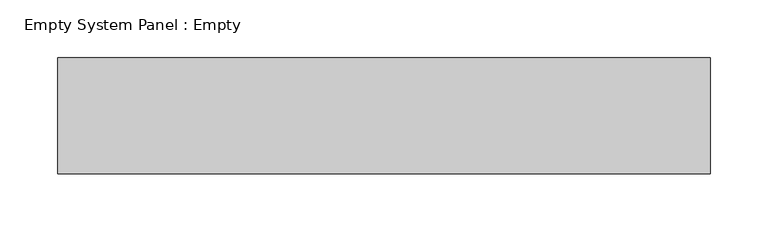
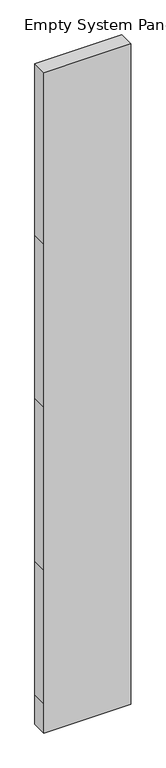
"""IFC4 building model written with IfcOpenShell, lengths in millimetres: plate geometry, Empty System Panel : Empty."""

from ifc_helpers import new_model, si_unit, frame, origin, place, context, project, spatial, polyline, outline, extrude, source, transform, mapped, element, save


def empty_system_panel_empty_5eeb5584(model_context):
    return source(origin(), model_context, "Body", "SweptSolid", [
        extrude(outline(polyline([(0.0, -281.25), (0.0, 281.25), (200.0, 281.25), (1112.5, 281.25), (2225.0, 281.25), (3337.5, 281.25), (4510.0, 281.25), (4510.0, -281.25), (3337.5, -281.25), (2225.0, -281.25), (1112.5, -281.25), (200.0, -281.25), (0.0, -281.25)])), frame((0.0, -50.0, 0.0), z_axis=(0.0, 1.0, 0.0), x_axis=(0.0, 0.0, 1.0)), (0.0, 0.0, 1.0), 100.0),
    ])


if __name__ == "__main__":
    model = new_model("IFC4")
    model_context = context("Model", 3, world=origin())
    ifc_project = project(units=[si_unit("LENGTHUNIT", "METRE", prefix="MILLI")], contexts=[model_context])
    site = spatial("IfcSite", under=ifc_project)
    building = spatial("IfcBuilding", under=site)
    placement = place(None, origin())
    empty_system_panel_empty_shape = empty_system_panel_empty_5eeb5584(model_context)
    element("IfcPlate", 1, ObjectType="Empty System Panel : Empty", at=placement, inside=building, context=model_context, shape_type="MappedRepresentation", body=[
        mapped(empty_system_panel_empty_shape, transform((0.0, 0.0, 0.0), x_axis=(1.0, 0.0, 0.0), y_axis=(0.0, 1.0, 0.0), z_axis=(0.0, 0.0, 1.0))),
    ])
    save(model, "model.ifc")
